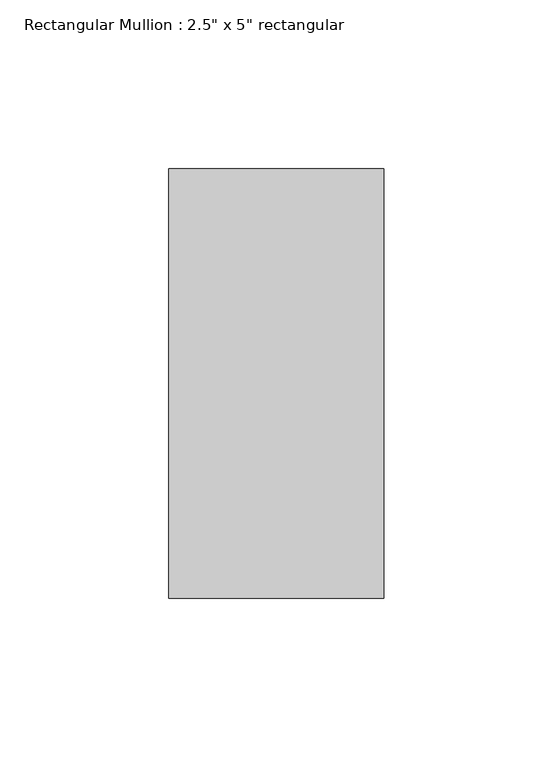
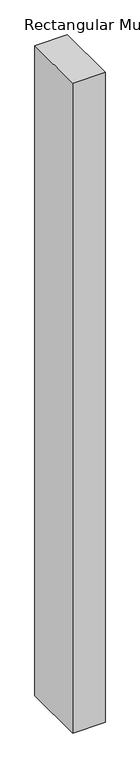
"""IFC4 building model written with IfcOpenShell, lengths in millimetres: member geometry."""

from ifc_helpers import new_model, si_unit, frame, origin, place, context, project, spatial, polyline, outline, extrude, source, transform, mapped, element, save


def member_97a07400(model_context):
    return source(origin(), model_context, "Body", "SweptSolid", [
        extrude(outline(polyline([(0.0, 63.5), (0.0, -63.5), (-63.5, -63.5), (-63.5, 63.5), (0.0, 63.5)])), frame((0.0, 0.0, -1339.8500001), z_axis=(0.0, 0.0, 1.0), x_axis=(1.0, 0.0, 0.0)), (0.0, 0.0, 1.0), 1339.8500001),
    ])


if __name__ == "__main__":
    model = new_model("IFC4")
    model_context = context("Model", 3, world=origin())
    ifc_project = project(units=[si_unit("LENGTHUNIT", "METRE", prefix="MILLI")], contexts=[model_context])
    site = spatial("IfcSite", under=ifc_project)
    building = spatial("IfcBuilding", under=site)
    placement = place(None, origin())
    member_shape = member_97a07400(model_context)
    element("IfcMember", 1, ObjectType="Rectangular Mullion : 2.5\" x 5\" rectangular", at=placement, inside=building, context=model_context, shape_type="MappedRepresentation", body=[
        mapped(member_shape, transform((0.0, 0.0, 0.0), x_axis=(1.0, 0.0, 0.0), y_axis=(0.0, 1.0, 0.0), z_axis=(0.0, 0.0, 1.0))),
    ])
    save(model, "model.ifc")
